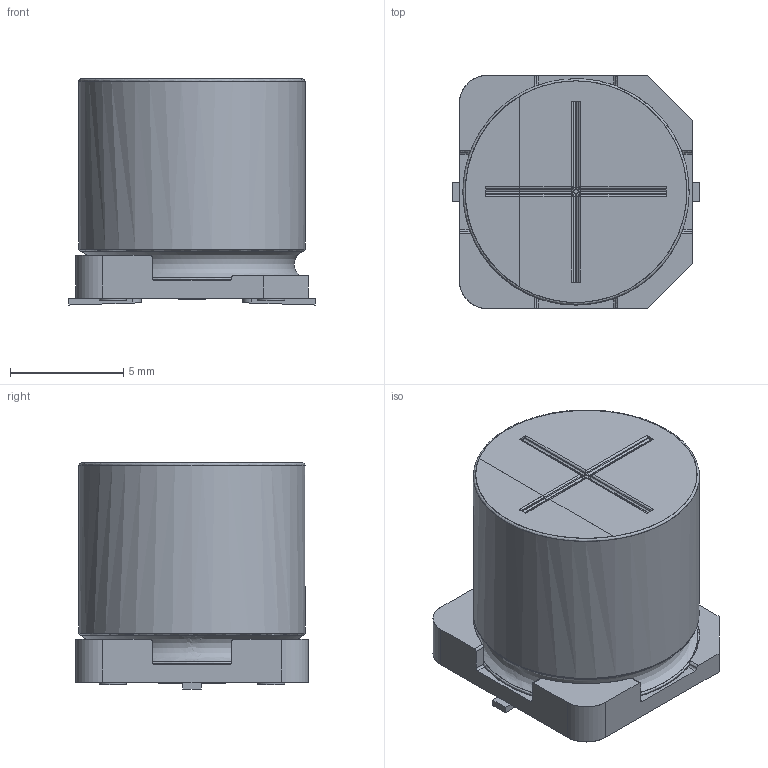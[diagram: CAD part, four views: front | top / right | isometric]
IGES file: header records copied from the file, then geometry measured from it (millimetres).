
Start section: JAMA-IS VERSION  1.0
Bounding box: 10.9 x 10.3 x 10 mm (x, y, z)
Surface area: 756.1 mm2 (no closed solid volume)
Topology: 0 solids, 0 shells, 134 faces, 1310 edges, 1290 vertices
Faces by surface type: bspline 134
